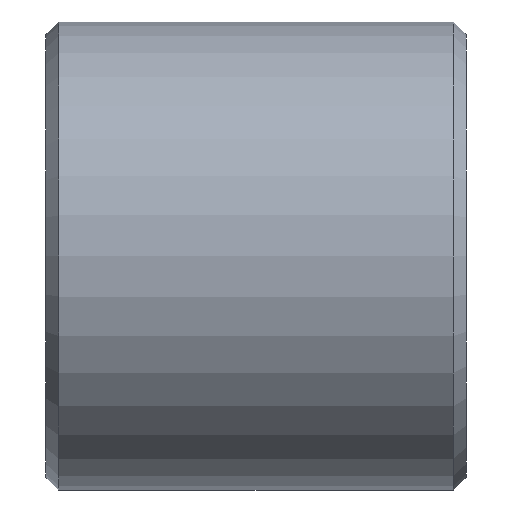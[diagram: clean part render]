
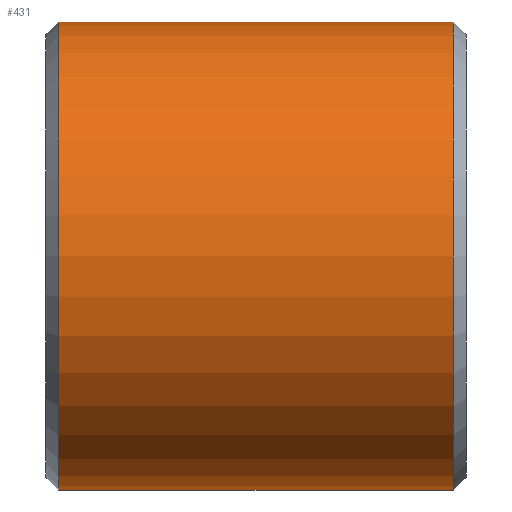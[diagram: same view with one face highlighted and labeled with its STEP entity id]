
A CAD part, left-side view. The second image highlights one B-rep face of the part: STEP entity #431.
In plain terms, the highlighted cylindrical face has radius 7.074 mm (diameter 14.148 mm), a full revolution.
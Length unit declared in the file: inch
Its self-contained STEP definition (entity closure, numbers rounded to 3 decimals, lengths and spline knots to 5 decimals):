
#19=FACE_BOUND('',#86,.T.);
#22=CYLINDRICAL_SURFACE('',#486,0.2785);
#32=CIRCLE('',#484,0.2785);
#33=CIRCLE('',#485,0.2785);
#34=CIRCLE('',#487,0.2785);
#35=CIRCLE('',#488,0.2785);
#57=FACE_OUTER_BOUND('',#85,.T.);
#85=EDGE_LOOP('',(#337,#338,#339,#340,#341,#342));
#86=EDGE_LOOP('',(#343,#344,#345,#346,#347,#348));
#103=LINE('',#648,#143);
#112=LINE('',#671,#152);
#118=LINE('',#706,#158);
#143=VECTOR('',#515,0.3937);
#152=VECTOR('',#538,0.3937);
#158=VECTOR('',#580,0.2785);
#180=ELLIPSE('',#460,0.32158,0.2785);
#181=ELLIPSE('',#463,0.32158,0.2785);
#182=ELLIPSE('',#465,0.32158,0.2785);
#183=ELLIPSE('',#467,0.32158,0.2785);
#184=VERTEX_POINT('',#638);
#185=VERTEX_POINT('',#639);
#188=VERTEX_POINT('',#647);
#190=VERTEX_POINT('',#653);
#192=VERTEX_POINT('',#659);
#194=VERTEX_POINT('',#665);
#204=VERTEX_POINT('',#699);
#205=VERTEX_POINT('',#701);
#206=VERTEX_POINT('',#705);
#207=VERTEX_POINT('',#707);
#223=EDGE_CURVE('',#184,#185,#180,.T.);
#227=EDGE_CURVE('',#185,#188,#103,.T.);
#230=EDGE_CURVE('',#188,#190,#181,.T.);
#233=EDGE_CURVE('',#190,#192,#182,.T.);
#236=EDGE_CURVE('',#194,#184,#183,.T.);
#239=EDGE_CURVE('',#192,#194,#112,.T.);
#253=EDGE_CURVE('',#204,#205,#32,.T.);
#254=EDGE_CURVE('',#205,#204,#33,.T.);
#255=EDGE_CURVE('',#205,#206,#118,.T.);
#256=EDGE_CURVE('',#207,#206,#34,.T.);
#257=EDGE_CURVE('',#206,#207,#35,.T.);
#337=ORIENTED_EDGE('',*,*,#253,.F.);
#338=ORIENTED_EDGE('',*,*,#254,.F.);
#339=ORIENTED_EDGE('',*,*,#255,.T.);
#340=ORIENTED_EDGE('',*,*,#256,.F.);
#341=ORIENTED_EDGE('',*,*,#257,.F.);
#342=ORIENTED_EDGE('',*,*,#255,.F.);
#343=ORIENTED_EDGE('',*,*,#233,.T.);
#344=ORIENTED_EDGE('',*,*,#239,.T.);
#345=ORIENTED_EDGE('',*,*,#236,.T.);
#346=ORIENTED_EDGE('',*,*,#223,.T.);
#347=ORIENTED_EDGE('',*,*,#227,.T.);
#348=ORIENTED_EDGE('',*,*,#230,.T.);
#431=ADVANCED_FACE('',(#57,#19),#22,.T.);
#460=AXIS2_PLACEMENT_3D('',#640,#508,#509);
#463=AXIS2_PLACEMENT_3D('',#654,#520,#521);
#465=AXIS2_PLACEMENT_3D('',#660,#526,#527);
#467=AXIS2_PLACEMENT_3D('',#666,#532,#533);
#484=AXIS2_PLACEMENT_3D('',#702,#574,#575);
#485=AXIS2_PLACEMENT_3D('',#703,#576,#577);
#486=AXIS2_PLACEMENT_3D('',#704,#578,#579);
#487=AXIS2_PLACEMENT_3D('',#708,#581,#582);
#488=AXIS2_PLACEMENT_3D('',#709,#583,#584);
#508=DIRECTION('center_axis',(0.,-0.866,0.5));
#509=DIRECTION('ref_axis',(0.,-0.5,-0.866));
#515=DIRECTION('',(0.,1.,0.));
#520=DIRECTION('center_axis',(0.,0.866,0.5));
#521=DIRECTION('ref_axis',(0.,0.5,-0.866));
#526=DIRECTION('center_axis',(0.,0.866,-0.5));
#527=DIRECTION('ref_axis',(0.,-0.5,-0.866));
#532=DIRECTION('center_axis',(0.,-0.866,-0.5));
#533=DIRECTION('ref_axis',(0.,0.5,-0.866));
#538=DIRECTION('',(0.,-1.,0.));
#574=DIRECTION('center_axis',(0.,-1.,0.));
#575=DIRECTION('ref_axis',(0.,0.,1.));
#576=DIRECTION('center_axis',(0.,-1.,0.));
#577=DIRECTION('ref_axis',(0.,0.,1.));
#578=DIRECTION('center_axis',(0.,-1.,0.));
#579=DIRECTION('ref_axis',(0.,0.,-1.));
#580=DIRECTION('',(0.,1.,0.));
#581=DIRECTION('center_axis',(0.,1.,0.));
#582=DIRECTION('ref_axis',(0.,0.,1.));
#583=DIRECTION('center_axis',(0.,1.,0.));
#584=DIRECTION('ref_axis',(0.,0.,1.));
#638=CARTESIAN_POINT('',(0.2785,0.20381,0.));
#639=CARTESIAN_POINT('',(0.27561,0.22691,0.04));
#640=CARTESIAN_POINT('Origin',(0.,0.20381,0.));
#647=CARTESIAN_POINT('',(0.27561,0.27309,0.04));
#648=CARTESIAN_POINT('',(0.27561,0.25,0.04));
#653=CARTESIAN_POINT('',(0.2785,0.29619,0.));
#654=CARTESIAN_POINT('Origin',(0.,0.29619,0.));
#659=CARTESIAN_POINT('',(0.27561,0.27309,-0.04));
#660=CARTESIAN_POINT('Origin',(0.,0.29619,0.));
#665=CARTESIAN_POINT('',(0.27561,0.22691,-0.04));
#666=CARTESIAN_POINT('Origin',(0.,0.20381,0.));
#671=CARTESIAN_POINT('',(0.27561,0.25,-0.04));
#699=CARTESIAN_POINT('',(0.,0.015,-0.2785));
#701=CARTESIAN_POINT('',(0.,0.015,0.2785));
#702=CARTESIAN_POINT('Origin',(0.,0.015,0.));
#703=CARTESIAN_POINT('Origin',(0.,0.015,0.));
#704=CARTESIAN_POINT('Origin',(0.,0.25,0.));
#705=CARTESIAN_POINT('',(0.,0.485,0.2785));
#706=CARTESIAN_POINT('',(0.,0.25,0.2785));
#707=CARTESIAN_POINT('',(0.,0.485,-0.2785));
#708=CARTESIAN_POINT('Origin',(0.,0.485,0.));
#709=CARTESIAN_POINT('Origin',(0.,0.485,0.));
